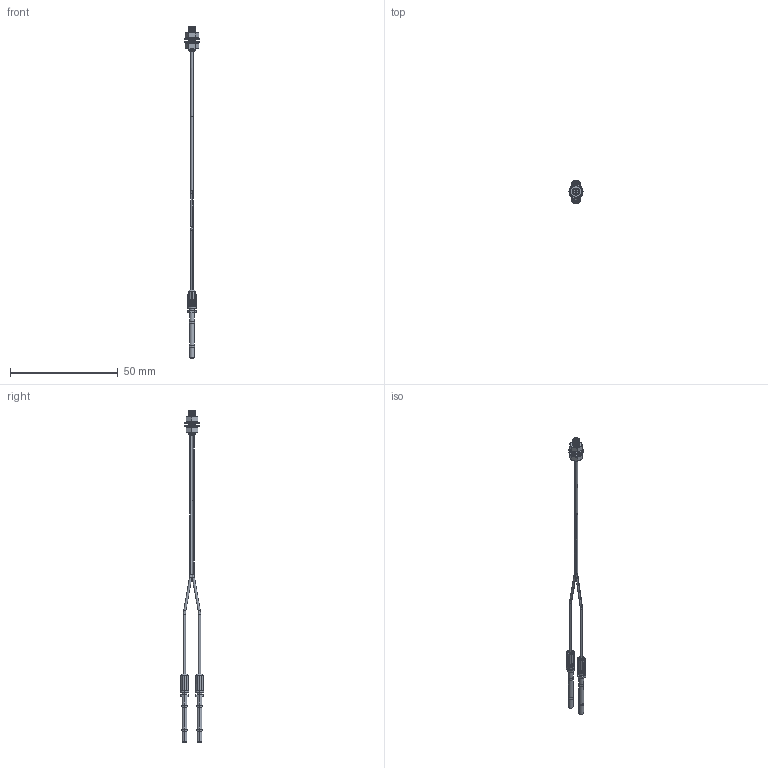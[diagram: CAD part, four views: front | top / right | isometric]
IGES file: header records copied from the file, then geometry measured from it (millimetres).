
Start section: SolidWorks IGES file using analytic representation for surfaces
Bounding box: 6.5 x 11 x 154.01 mm (x, y, z)
Surface area: 2199.1 mm2 (no closed solid volume)
Topology: 0 solids, 0 shells, 397 faces, 4516 edges, 4516 vertices
Faces by surface type: revolution 209, bspline 188
